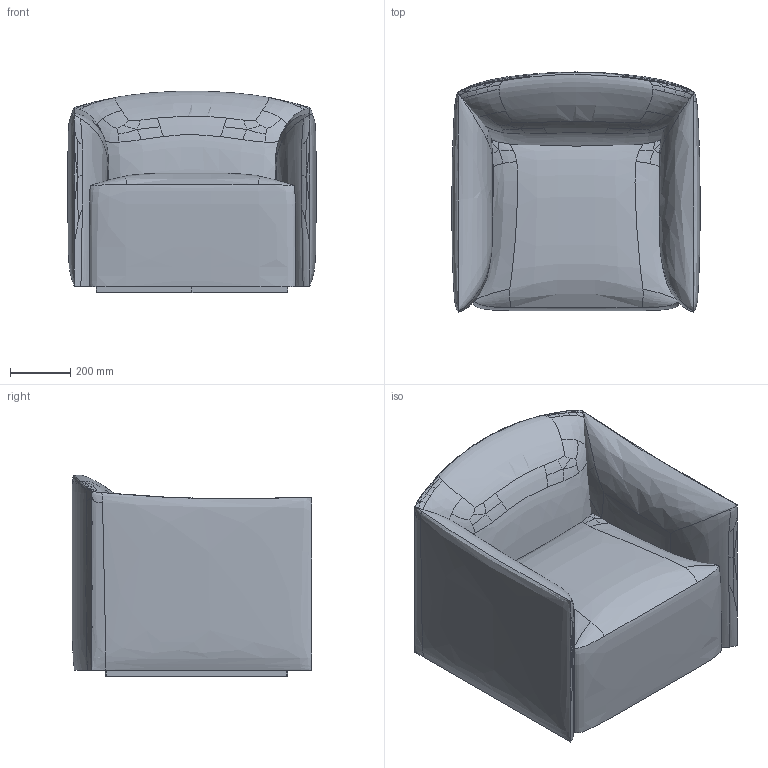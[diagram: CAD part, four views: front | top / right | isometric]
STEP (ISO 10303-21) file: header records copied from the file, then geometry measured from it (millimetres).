
FILE_DESCRIPTION(/* description */ (''),/* implementation_level */ '2;1');
FILE_NAME(/* name */ 'ARMCHAIR FULL COVER',/* time_stamp */ '2023-01-06T14:20:59+01:00',/* author */ (''),/* organization */ (''),/* preprocessor_version */ 'ST-DEVELOPER v16.5',/* originating_system */ 'Rhino 7.25',/* authorisation */ '');
FILE_SCHEMA (('CONFIG_CONTROL_DESIGN'));
Length unit declared in the file: millimetre
Products named in the file (1): Document
Bounding box: 828.31 x 798.78 x 672.08 mm (x, y, z)
Volume: 302652712.3 mm3; surface area: 5590776.1 mm2
Topology: 5 solids, 5 shells, 208 faces, 507 edges, 309 vertices
Faces by surface type: bspline 146, plane 46, cylinder 16
Entity records: 23673 total; most frequent: CARTESIAN_POINT 20323, ORIENTED_EDGE 1008, EDGE_CURVE 504, B_SPLINE_CURVE_WITH_KNOTS 478, VERTEX_POINT 306, ADVANCED_FACE 208, FACE_OUTER_BOUND 208, EDGE_LOOP 208
